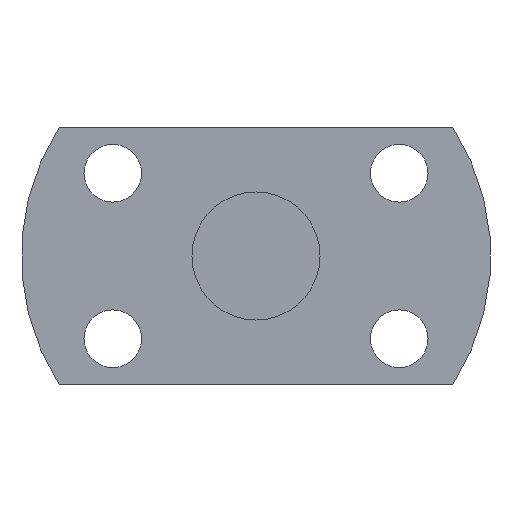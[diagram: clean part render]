
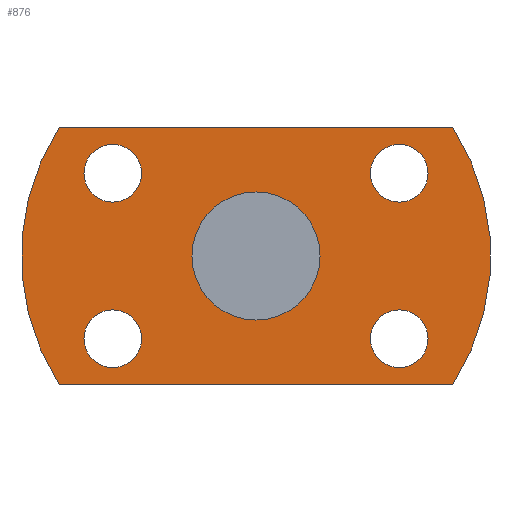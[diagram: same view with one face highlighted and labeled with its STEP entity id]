
A CAD part, left-side view. The second image highlights one B-rep face of the part: STEP entity #876.
In plain terms, the highlighted planar face has unit normal (-1, 0, 0).
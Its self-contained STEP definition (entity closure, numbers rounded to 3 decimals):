
#230=CARTESIAN_POINT('',(135.0,13.423,-5.05));
#231=VERTEX_POINT('',#230);
#232=CARTESIAN_POINT('',(135.0,13.423,-7.75));
#233=DIRECTION('',(1.0,0.0,0.0));
#234=DIRECTION('',(0.0,0.0,1.0));
#235=AXIS2_PLACEMENT_3D('',#232,#233,#234);
#236=CIRCLE('',#235,2.7);
#237=EDGE_CURVE('',#231,#231,#236,.T.);
#279=CARTESIAN_POINT('',(135.0,-13.423,10.45));
#280=VERTEX_POINT('',#279);
#281=CARTESIAN_POINT('',(135.0,-13.423,7.75));
#282=DIRECTION('',(1.0,0.0,0.0));
#283=DIRECTION('',(0.0,0.0,1.0));
#284=AXIS2_PLACEMENT_3D('',#281,#282,#283);
#285=CIRCLE('',#284,2.7);
#286=EDGE_CURVE('',#280,#280,#285,.T.);
#328=CARTESIAN_POINT('',(135.0,-13.423,-5.05));
#329=VERTEX_POINT('',#328);
#330=CARTESIAN_POINT('',(135.0,-13.423,-7.75));
#331=DIRECTION('',(1.0,0.0,0.0));
#332=DIRECTION('',(0.0,0.0,1.0));
#333=AXIS2_PLACEMENT_3D('',#330,#331,#332);
#334=CIRCLE('',#333,2.7);
#335=EDGE_CURVE('',#329,#329,#334,.T.);
#377=CARTESIAN_POINT('',(135.0,13.423,10.45));
#378=VERTEX_POINT('',#377);
#379=CARTESIAN_POINT('',(135.0,13.423,7.75));
#380=DIRECTION('',(1.0,0.0,0.0));
#381=DIRECTION('',(0.0,0.0,1.0));
#382=AXIS2_PLACEMENT_3D('',#379,#380,#381);
#383=CIRCLE('',#382,2.7);
#384=EDGE_CURVE('',#378,#378,#383,.T.);
#682=CARTESIAN_POINT('',(135.0,-18.439,-12.));
#683=VERTEX_POINT('',#682);
#690=CARTESIAN_POINT('',(135.0,18.439,-12.));
#691=VERTEX_POINT('',#690);
#692=CARTESIAN_POINT('',(135.0,18.439,-12.));
#693=DIRECTION('',(0.0,-1.0,0.0));
#694=VECTOR('',#693,36.878);
#695=LINE('',#692,#694);
#696=EDGE_CURVE('',#691,#683,#695,.T.);
#713=CARTESIAN_POINT('',(135.0,-18.439,12.));
#714=VERTEX_POINT('',#713);
#721=CARTESIAN_POINT('',(135.0,0.0,0.));
#722=DIRECTION('',(-1.0,0.0,0.0));
#723=DIRECTION('',(0.0,0.0,1.0));
#724=AXIS2_PLACEMENT_3D('',#721,#722,#723);
#725=CIRCLE('',#724,22.0);
#726=EDGE_CURVE('',#683,#714,#725,.T.);
#738=CARTESIAN_POINT('',(135.0,18.439,12.));
#739=VERTEX_POINT('',#738);
#746=CARTESIAN_POINT('',(135.0,-18.439,12.));
#747=DIRECTION('',(0.0,1.0,0.0));
#748=VECTOR('',#747,36.878);
#749=LINE('',#746,#748);
#750=EDGE_CURVE('',#714,#739,#749,.T.);
#763=CARTESIAN_POINT('',(135.0,0.0,0.));
#764=DIRECTION('',(-1.0,0.0,0.0));
#765=DIRECTION('',(0.0,0.0,1.0));
#766=AXIS2_PLACEMENT_3D('',#763,#764,#765);
#767=CIRCLE('',#766,22.0);
#768=EDGE_CURVE('',#739,#691,#767,.T.);
#842=CARTESIAN_POINT('',(135.0,0.0,8.5));
#843=DIRECTION('',(-1.0,0.0,0.0));
#844=DIRECTION('',(0.0,0.0,1.0));
#845=AXIS2_PLACEMENT_3D('',#842,#843,#844);
#846=PLANE('',#845);
#847=ORIENTED_EDGE('',*,*,#768,.T.);
#848=ORIENTED_EDGE('',*,*,#696,.T.);
#849=ORIENTED_EDGE('',*,*,#726,.T.);
#850=ORIENTED_EDGE('',*,*,#750,.T.);
#851=EDGE_LOOP('',(#847,#848,#849,#850));
#852=FACE_OUTER_BOUND('',#851,.T.);
#853=ORIENTED_EDGE('',*,*,#237,.T.);
#854=EDGE_LOOP('',(#853));
#855=FACE_BOUND('',#854,.T.);
#856=ORIENTED_EDGE('',*,*,#286,.T.);
#857=EDGE_LOOP('',(#856));
#858=FACE_BOUND('',#857,.T.);
#859=ORIENTED_EDGE('',*,*,#335,.T.);
#860=EDGE_LOOP('',(#859));
#861=FACE_BOUND('',#860,.T.);
#862=ORIENTED_EDGE('',*,*,#384,.T.);
#863=EDGE_LOOP('',(#862));
#864=FACE_BOUND('',#863,.T.);
#865=CARTESIAN_POINT('',(135.0,0.0,6.));
#866=VERTEX_POINT('',#865);
#867=CARTESIAN_POINT('',(135.0,0.0,0.));
#868=DIRECTION('',(-1.0,0.0,0.0));
#869=DIRECTION('',(0.0,0.0,1.0));
#870=AXIS2_PLACEMENT_3D('',#867,#868,#869);
#871=CIRCLE('',#870,6.);
#872=EDGE_CURVE('',#866,#866,#871,.T.);
#873=ORIENTED_EDGE('',*,*,#872,.F.);
#874=EDGE_LOOP('',(#873));
#875=FACE_BOUND('',#874,.T.);
#876=ADVANCED_FACE('',(#852,#855,#858,#861,#864,#875),#846,.T.);
